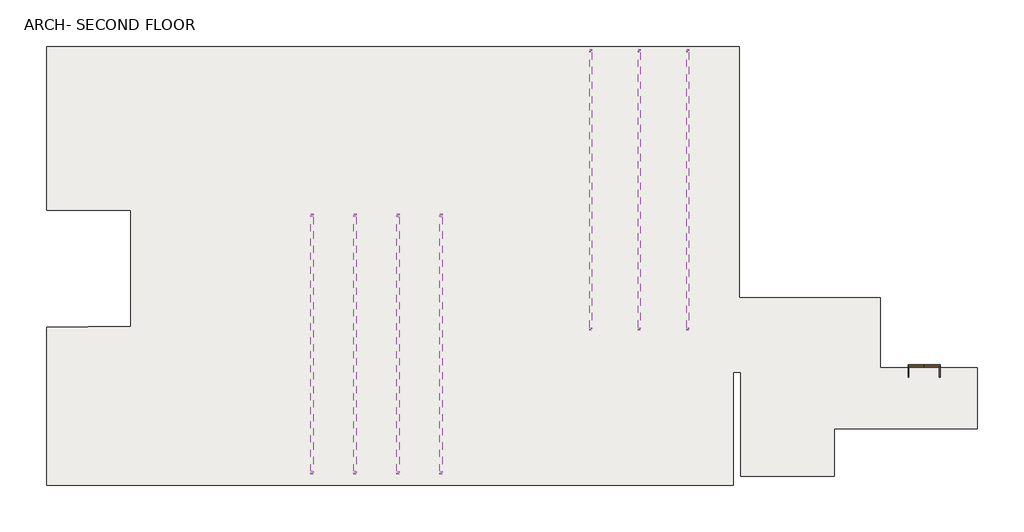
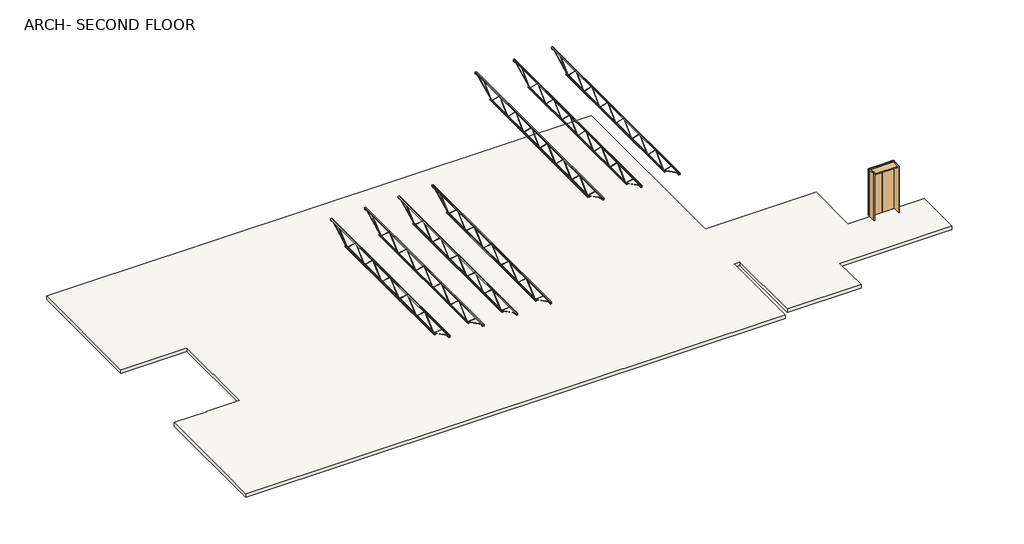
# One storey: 7 beams, 1 door, 1 slab.
"""IFC4 building model written with IfcOpenShell, lengths in millimetres."""

from ifc_helpers import new_model, si_unit, origin, place, context, project, spatial, faceted_brep, transform, mapped, element, save
from components import k_series_bar_joist_rod_web_24k4_98bbd377, k_series_bar_joist_rod_web_24k4_0bbdf4ea, door_aaeb5b8c

model = new_model("IFC4")

# Units and contexts
model_context = context("Model", 3, world=origin())
ifc_project = project(units=[si_unit("LENGTHUNIT", "METRE", prefix="MILLI")], contexts=[model_context])

# Site, building, storey
site = spatial("IfcSite", under=ifc_project)
building = spatial("IfcBuilding", under=site)
storey = spatial("IfcBuildingStorey", under=building, Name="ARCH- SECOND FLOOR", Elevation=34544.0)

# Beams
placement = place(None, origin())
k_series_bar_joist_rod_web_24k4_shape = k_series_bar_joist_rod_web_24k4_98bbd377(model_context)
element("IfcBeam", 1, ObjectType="K-Series Bar Joist-Rod Web : 24K4", at=placement, inside=storey, context=model_context, shape_type="MappedRepresentation", body=[
    mapped(k_series_bar_joist_rod_web_24k4_shape, transform((-1192.8454607, -2408.8304995, 38163.5), x_axis=(0.0, 1.0, 0.0), y_axis=(-1.0, 0.0, 0.0), z_axis=(0.0, 0.0, 1.0))),
])
element("IfcBeam", 2, ObjectType="K-Series Bar Joist-Rod Web : 24K4", at=placement, inside=storey, context=model_context, shape_type="MappedRepresentation", body=[
    mapped(k_series_bar_joist_rod_web_24k4_shape, transform((304.1670393, -2408.8304995, 38163.5), x_axis=(0.0, 1.0, 0.0), y_axis=(-1.0, 0.0, 0.0), z_axis=(0.0, 0.0, 1.0))),
])
element("IfcBeam", 3, ObjectType="K-Series Bar Joist-Rod Web : 24K4", at=placement, inside=storey, context=model_context, shape_type="MappedRepresentation", body=[
    mapped(k_series_bar_joist_rod_web_24k4_shape, transform((1801.1795393, -2408.8304995, 38163.5), x_axis=(0.0, 1.0, 0.0), y_axis=(-1.0, 0.0, 0.0), z_axis=(0.0, 0.0, 1.0))),
])
element("IfcBeam", 4, ObjectType="K-Series Bar Joist-Rod Web : 24K4", at=placement, inside=storey, context=model_context, shape_type="MappedRepresentation", body=[
    mapped(k_series_bar_joist_rod_web_24k4_shape, transform((3298.1920393, -2408.8304995, 38163.5), x_axis=(0.0, 1.0, 0.0), y_axis=(-1.0, 0.0, 0.0), z_axis=(0.0, 0.0, 1.0))),
])
k_series_bar_joist_rod_web_24k4_2_shape = k_series_bar_joist_rod_web_24k4_0bbdf4ea(model_context)
element("IfcBeam", 5, ObjectType="K-Series Bar Joist-Rod Web : 24K4", at=placement, inside=storey, context=model_context, shape_type="MappedRepresentation", body=[
    mapped(k_series_bar_joist_rod_web_24k4_2_shape, transform((8511.1451643, 2953.7445005, 38163.5), x_axis=(0.0, 1.0, 0.0), y_axis=(-1.0, 0.0, 0.0), z_axis=(0.0, 0.0, 1.0))),
])
element("IfcBeam", 6, ObjectType="K-Series Bar Joist-Rod Web : 24K4", at=placement, inside=storey, context=model_context, shape_type="MappedRepresentation", body=[
    mapped(k_series_bar_joist_rod_web_24k4_2_shape, transform((10196.6732893, 2953.7445005, 38163.5), x_axis=(0.0, 1.0, 0.0), y_axis=(-1.0, 0.0, 0.0), z_axis=(0.0, 0.0, 1.0))),
])
element("IfcBeam", 7, ObjectType="K-Series Bar Joist-Rod Web : 24K4", at=placement, inside=storey, context=model_context, shape_type="MappedRepresentation", body=[
    mapped(k_series_bar_joist_rod_web_24k4_2_shape, transform((11882.2014143, 2953.7445005, 38163.5), x_axis=(0.0, 1.0, 0.0), y_axis=(-1.0, 0.0, 0.0), z_axis=(0.0, 0.0, 1.0))),
])

# Door
door_shape = door_aaeb5b8c(model_context)
element("IfcDoor", 8, ObjectType="Elevator_Door_CabCenter-Genericrfa : 42\" Opening", at=placement, inside=storey, context=model_context, shape_type="MappedRepresentation", body=[
    mapped(door_shape, transform((20107.0141096, -3399.4304995, 34544.0), x_axis=(1.0, 0.0, 0.0), y_axis=(0.0, 1.0, 0.0), z_axis=(0.0, 0.0, 1.0))),
])

# Slab
element("IfcSlab", 9, ObjectType="4.5\" NW Concrete on 2\" Metal Deck", at=placement, inside=storey, context=model_context, shape_type="Brep", body=[
    faceted_brep([(-10428.9204607, 7944.8445005, 34378.9), (-7555.5454607, 7944.8445005, 34378.9), (-7149.1454607, 7944.8445005, 34378.9), (13669.3295393, 7944.8445005, 34378.9), (13669.3295393, -795.9304995, 34378.9), (18588.1486799, -795.9304995, 34378.9), (18588.1486799, -3234.3304995, 34378.9), (21963.6565318, -3234.3304995, 34378.9), (21963.6565318, -5354.6502033, 34378.9), (16987.2045393, -5354.6502033, 34378.9), (16987.2045393, -7006.8107957, 34378.9), (13720.1295393, -7006.8107957, 34378.9), (13720.1295393, -3387.4746401, 34378.9), (13466.0799299, -3387.4746401, 34378.9), (13466.0799299, -7314.2054995, 34378.9), (-10428.9204607, -7314.2054995, 34378.9), (-10428.9204607, -1830.9804995, 34378.9), (-8971.5954607, -1830.9804995, 34378.9), (-8971.5954607, -1802.4551089, 34378.9), (-7501.5704607, -1802.4551089, 34378.9), (-7501.5704607, 2255.2445005, 34378.9), (-10428.9204607, 2255.2445005, 34378.9), (-10428.9204607, 7944.8445005, 34544.0), (-10428.9204607, 2255.2445005, 34544.0), (-7501.5704607, 2255.2445005, 34544.0), (-7501.5704607, -1802.4551089, 34544.0), (-8971.5954607, -1802.4551089, 34544.0), (-8971.5954607, -1830.9804995, 34544.0), (-10428.9204607, -1830.9804995, 34544.0), (-10428.9204607, -7314.2054995, 34544.0), (13466.0799299, -7314.2054995, 34544.0), (13466.0799299, -3387.4746401, 34544.0), (13720.1295393, -3387.4746401, 34544.0), (13720.1295393, -7006.8107957, 34544.0), (16987.2045393, -7006.8107957, 34544.0), (16987.2045393, -5354.6502033, 34544.0), (21963.6565318, -5354.6502033, 34544.0), (21963.6565318, -3234.3304995, 34544.0), (18588.1486799, -3234.3304995, 34544.0), (18588.1486799, -795.9304995, 34544.0), (13669.3295393, -795.9304995, 34544.0), (13669.3295393, 7944.8445005, 34544.0), (-7149.1454607, 7944.8445005, 34544.0), (-7555.5454607, 7944.8445005, 34544.0)], [[[0, 1, 2, 3, 4, 5, 6, 7, 8, 9, 10, 11, 12, 13, 14, 15, 16, 17, 18, 19, 20, 21]], [[22, 23, 24, 25, 26, 27, 28, 29, 30, 31, 32, 33, 34, 35, 36, 37, 38, 39, 40, 41, 42, 43]], [[3, 2, 1, 0, 22, 43, 42, 41]], [[4, 3, 41, 40]], [[5, 4, 40, 39]], [[6, 5, 39, 38]], [[7, 6, 38, 37]], [[8, 7, 37, 36]], [[11, 10, 34, 33]], [[15, 14, 30, 29]], [[16, 15, 29, 28]], [[9, 8, 36, 35]], [[10, 9, 35, 34]], [[12, 11, 33, 32]], [[13, 12, 32, 31]], [[14, 13, 31, 30]], [[17, 16, 28, 27]], [[18, 17, 27, 26]], [[19, 18, 26, 25]], [[20, 19, 25, 24]], [[21, 20, 24, 23]], [[0, 21, 23, 22]]]),
])

save(model, "model.ifc")
